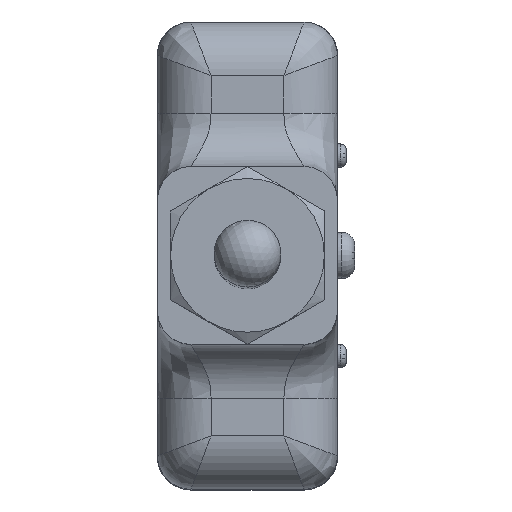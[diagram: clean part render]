
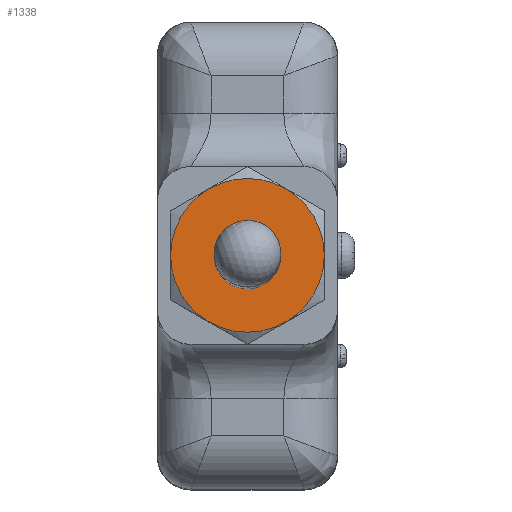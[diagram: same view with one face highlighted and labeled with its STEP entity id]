
A CAD part, top view. The second image highlights one B-rep face of the part: STEP entity #1338.
In plain terms, the highlighted planar face has unit normal (0, 0, 1).
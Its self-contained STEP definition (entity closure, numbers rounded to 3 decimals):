
#185 = AXIS2_PLACEMENT_3D ( 'NONE', #3425, #7437, #2763 ) ;
#249 = PLANE ( 'NONE',  #4435 ) ;
#363 = CARTESIAN_POINT ( 'NONE',  ( 979.085, 997.548, 1064.131 ) ) ;
#676 = CARTESIAN_POINT ( 'NONE',  ( 979.085, 986.048, 1064.131 ) ) ;
#939 = DIRECTION ( 'NONE',  ( 0., 0., 1. ) ) ;
#1293 = ORIENTED_EDGE ( 'NONE', *, *, #1471, .F. ) ;
#1338 = ADVANCED_FACE ( 'NONE', ( #6130 ), #249, .T. ) ;
#1423 = CIRCLE ( 'NONE', #185, 11.5 ) ;
#1447 = DIRECTION ( 'NONE',  ( 0., 1., 0. ) ) ;
#1471 = EDGE_CURVE ( 'NONE', #7209, #7209, #1423, .T. ) ;
#2763 = DIRECTION ( 'NONE',  ( 0., -1., 0. ) ) ;
#3425 = CARTESIAN_POINT ( 'NONE',  ( 979.085, 997.548, 1064.131 ) ) ;
#3583 = EDGE_LOOP ( 'NONE', ( #1293 ) ) ;
#4435 = AXIS2_PLACEMENT_3D ( 'NONE', #363, #939, #1447 ) ;
#6130 = FACE_OUTER_BOUND ( 'NONE', #3583, .T. ) ;
#7209 = VERTEX_POINT ( 'NONE', #676 ) ;
#7437 = DIRECTION ( 'NONE',  ( 0., 0., -1. ) ) ;
